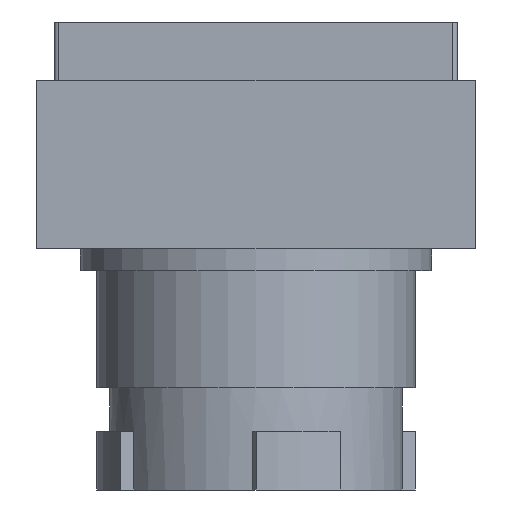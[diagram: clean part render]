
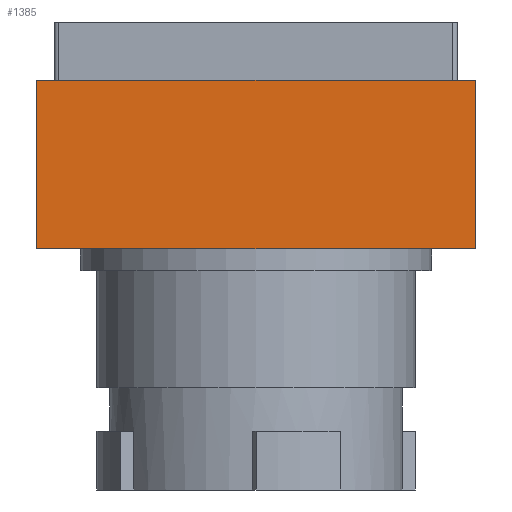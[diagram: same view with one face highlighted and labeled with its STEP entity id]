
A CAD part, front view. The second image highlights one B-rep face of the part: STEP entity #1385.
In plain terms, the highlighted planar face has unit normal (0, -1, 0).
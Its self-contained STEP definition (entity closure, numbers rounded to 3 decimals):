
#12 = VECTOR ( 'NONE', #4538, 1000. ) ;
#120 = VECTOR ( 'NONE', #3871, 1000. ) ;
#157 = EDGE_CURVE ( 'NONE', #6472, #460, #5370, .T. ) ;
#257 = ORIENTED_EDGE ( 'NONE', *, *, #4488, .T. ) ;
#362 = CARTESIAN_POINT ( 'NONE',  ( -15., -21., 11.5 ) ) ;
#382 = FACE_OUTER_BOUND ( 'NONE', #915, .T. ) ;
#460 = VERTEX_POINT ( 'NONE', #6425 ) ;
#574 = ORIENTED_EDGE ( 'NONE', *, *, #157, .T. ) ;
#579 = AXIS2_PLACEMENT_3D ( 'NONE', #1193, #4833, #1715 ) ;
#591 = ORIENTED_EDGE ( 'NONE', *, *, #4745, .F. ) ;
#849 = CARTESIAN_POINT ( 'NONE',  ( -15., -21., 11.5 ) ) ;
#915 = EDGE_LOOP ( 'NONE', ( #257, #6613, #591, #574 ) ) ;
#976 = CARTESIAN_POINT ( 'NONE',  ( -15., -21., 11.5 ) ) ;
#1193 = CARTESIAN_POINT ( 'NONE',  ( -15., -21., 11.5 ) ) ;
#1385 = ADVANCED_FACE ( 'NONE', ( #382 ), #6336, .F. ) ;
#1672 = LINE ( 'NONE', #5411, #120 ) ;
#1715 = DIRECTION ( 'NONE',  ( 0., 0., 1. ) ) ;
#1799 = CARTESIAN_POINT ( 'NONE',  ( 15., -21., 0. ) ) ;
#2172 = VECTOR ( 'NONE', #5371, 1000. ) ;
#3007 = VERTEX_POINT ( 'NONE', #3983 ) ;
#3871 = DIRECTION ( 'NONE',  ( 0., 0., -1. ) ) ;
#3983 = CARTESIAN_POINT ( 'NONE',  ( 15., -21., 11.5 ) ) ;
#4488 = EDGE_CURVE ( 'NONE', #460, #6422, #6300, .T. ) ;
#4524 = EDGE_CURVE ( 'NONE', #3007, #6422, #1672, .T. ) ;
#4538 = DIRECTION ( 'NONE',  ( 0., 0., -1. ) ) ;
#4745 = EDGE_CURVE ( 'NONE', #6472, #3007, #5930, .T. ) ;
#4833 = DIRECTION ( 'NONE',  ( 0., 1., 0. ) ) ;
#4858 = CARTESIAN_POINT ( 'NONE',  ( -15., -21., 0. ) ) ;
#5131 = DIRECTION ( 'NONE',  ( 1., 0., 0. ) ) ;
#5370 = LINE ( 'NONE', #362, #12 ) ;
#5371 = DIRECTION ( 'NONE',  ( 1., 0., 0. ) ) ;
#5411 = CARTESIAN_POINT ( 'NONE',  ( 15., -21., 11.5 ) ) ;
#5773 = VECTOR ( 'NONE', #5131, 1000. ) ;
#5930 = LINE ( 'NONE', #976, #5773 ) ;
#6300 = LINE ( 'NONE', #4858, #2172 ) ;
#6336 = PLANE ( 'NONE',  #579 ) ;
#6422 = VERTEX_POINT ( 'NONE', #1799 ) ;
#6425 = CARTESIAN_POINT ( 'NONE',  ( -15., -21., 0. ) ) ;
#6472 = VERTEX_POINT ( 'NONE', #849 ) ;
#6613 = ORIENTED_EDGE ( 'NONE', *, *, #4524, .F. ) ;
